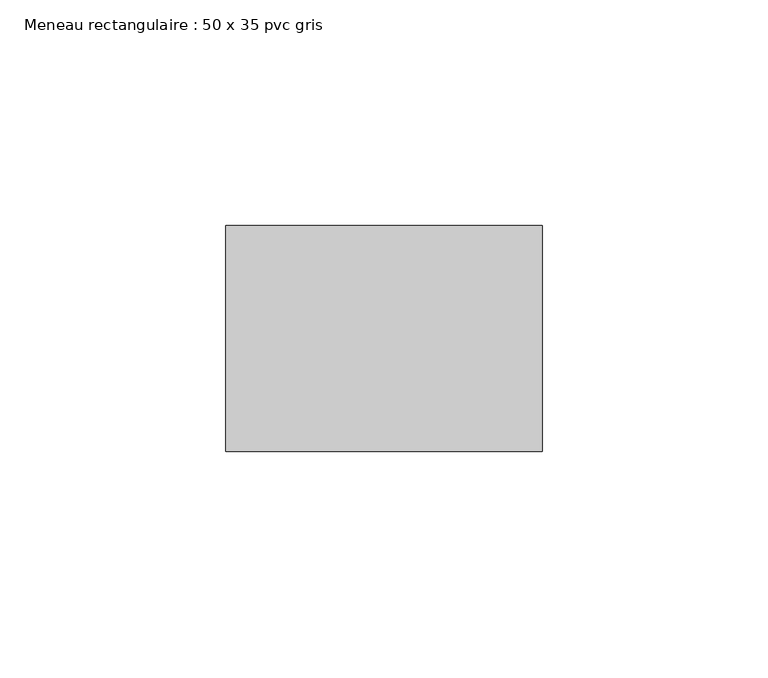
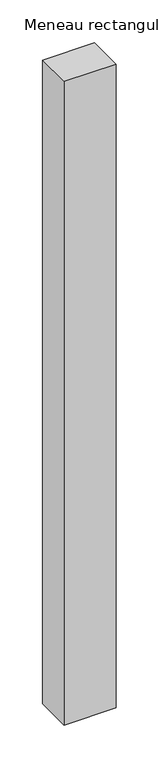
"""IFC4 building model written with IfcOpenShell, lengths in millimetres: member geometry, Meneau rectangulaire : 50 x 35 pvc gris."""

from ifc_helpers import new_model, si_unit, frame, origin, place, context, project, spatial, polyline, outline, extrude, source, transform, mapped, element, save


def meneau_rectangulaire_50_x_35_pvc_gris_d687b1cd(model_context):
    return source(origin(), model_context, "Body", "SweptSolid", [
        extrude(outline(polyline([(0.0, 0.0), (0.0, -50.0), (-70.0, -50.0), (-70.0, 0.0), (0.0, 0.0)])), frame((0.0, 0.0, -917.0), z_axis=(0.0, 0.0, 1.0), x_axis=(1.0, 0.0, 0.0)), (0.0, 0.0, 1.0), 917.0),
    ])


if __name__ == "__main__":
    model = new_model("IFC4")
    model_context = context("Model", 3, world=origin())
    ifc_project = project(units=[si_unit("LENGTHUNIT", "METRE", prefix="MILLI")], contexts=[model_context])
    site = spatial("IfcSite", under=ifc_project)
    building = spatial("IfcBuilding", under=site)
    placement = place(None, origin())
    meneau_rectangulaire_50_x_35_pvc_gris_shape = meneau_rectangulaire_50_x_35_pvc_gris_d687b1cd(model_context)
    element("IfcMember", 1, ObjectType="Meneau rectangulaire : 50 x 35 pvc gris", at=placement, inside=building, context=model_context, shape_type="MappedRepresentation", body=[
        mapped(meneau_rectangulaire_50_x_35_pvc_gris_shape, transform((0.0, 0.0, 0.0), x_axis=(1.0, 0.0, 0.0), y_axis=(0.0, 1.0, 0.0), z_axis=(0.0, 0.0, 1.0))),
    ])
    save(model, "model.ifc")
